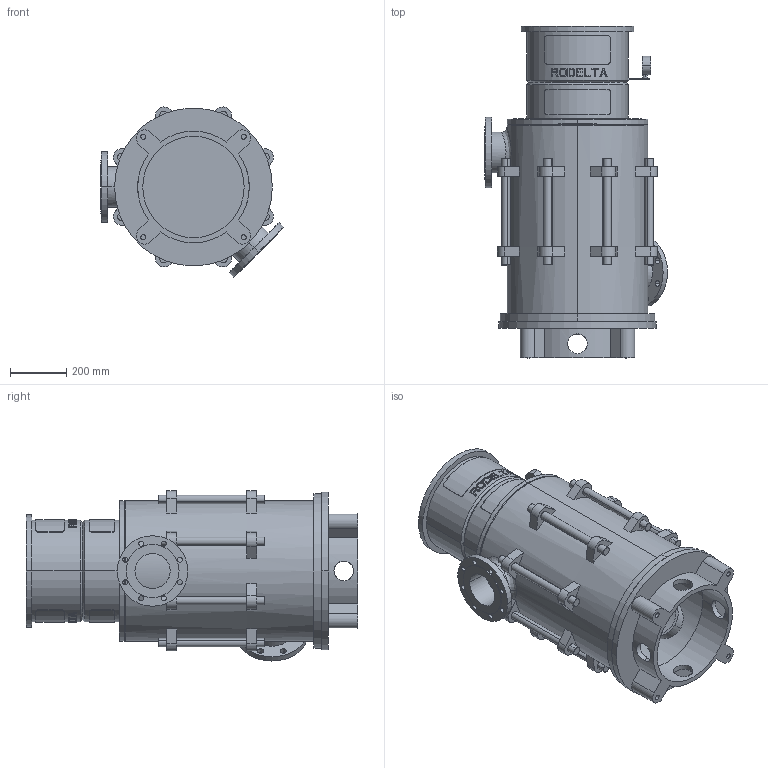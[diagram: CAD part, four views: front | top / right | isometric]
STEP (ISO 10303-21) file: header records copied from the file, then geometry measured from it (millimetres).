
FILE_DESCRIPTION((''),'2;1');
FILE_NAME('LS5_3TR_0GR_TOT_30KW','2023-08-08T',('Lyritlocal'),(''),'PRO/ENGINEER BY PARAMETRIC TECHNOLOGY CORPORATION, 2016360','PRO/ENGINEER BY PARAMETRIC TECHNOLOGY CORPORATION, 2016360','');
FILE_SCHEMA(('CONFIG_CONTROL_DESIGN'));
Length unit declared in the file: millimetre
Products named in the file (1): LS5_3TR_0GR_TOT_30KW
Bounding box: 649.61 x 1178 x 603.65 mm (x, y, z)
Volume: 34910389.5 mm3; surface area: 4909520.6 mm2
Topology: 3 solids, 7 shells, 672 faces, 1747 edges, 1158 vertices
Faces by surface type: plane 414, cylinder 242, cone 12, bspline 4
Entity records: 21972 total; most frequent: CARTESIAN_POINT 5528, ORIENTED_EDGE 3478, DIRECTION 3269, EDGE_CURVE 1747, AXIS2_PLACEMENT_3D 1241, VERTEX_POINT 1158, EDGE_LOOP 809, VECTOR 787
